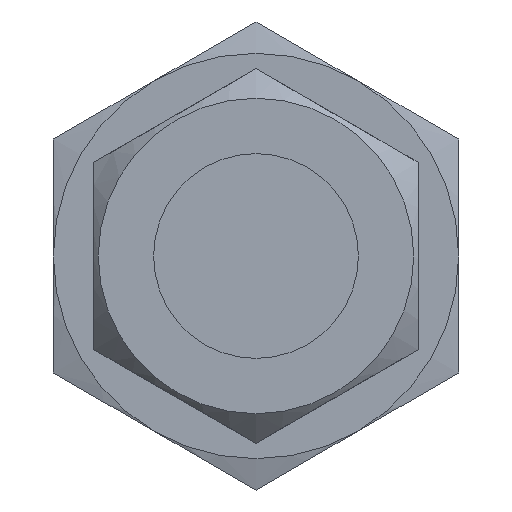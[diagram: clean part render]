
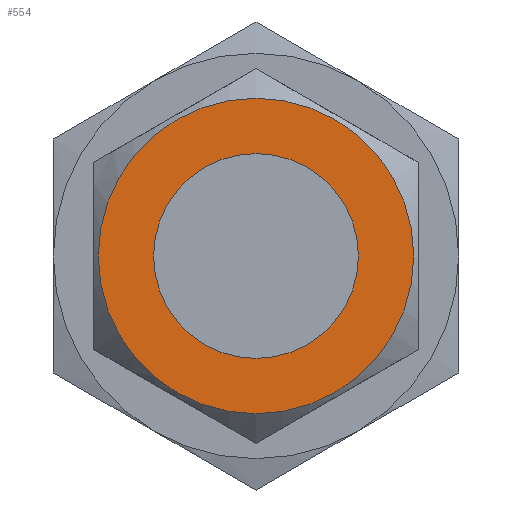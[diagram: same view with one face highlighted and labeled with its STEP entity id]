
A CAD part, left-side view. The second image highlights one B-rep face of the part: STEP entity #554.
In plain terms, the highlighted planar face has unit normal (-1, 0, 0).
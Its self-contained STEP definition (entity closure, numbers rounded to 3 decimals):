
#554 = ADVANCED_FACE( '', ( #1373, #1374 ), #1375, .T. );
#1373 = FACE_BOUND( '', #2494, .T. );
#1374 = FACE_OUTER_BOUND( '', #2495, .T. );
#1375 = PLANE( '', #2496 );
#2494 = EDGE_LOOP( '', ( #4233 ) );
#2495 = EDGE_LOOP( '', ( #4234 ) );
#2496 = AXIS2_PLACEMENT_3D( '', #4235, #4236, #4237 );
#4233 = ORIENTED_EDGE( '', *, *, #6538, .T. );
#4234 = ORIENTED_EDGE( '', *, *, #6539, .F. );
#4235 = CARTESIAN_POINT( '', ( -41.377, 12.505, -12.505 ) );
#4236 = DIRECTION( '', ( -1., 0., 0. ) );
#4237 = DIRECTION( '', ( 0., -1., 0. ) );
#6538 = EDGE_CURVE( '', #7822, #7822, #7823, .T. );
#6539 = EDGE_CURVE( '', #7824, #7824, #7825, .T. );
#7822 = VERTEX_POINT( '', #10135 );
#7823 = CIRCLE( '', #10136, 8.02 );
#7824 = VERTEX_POINT( '', #10137 );
#7825 = CIRCLE( '', #10138, 12.357 );
#10135 = CARTESIAN_POINT( '', ( -41.377, 0., 8.02 ) );
#10136 = AXIS2_PLACEMENT_3D( '', #11876, #11877, #11878 );
#10137 = CARTESIAN_POINT( '', ( -41.377, 0., 12.357 ) );
#10138 = AXIS2_PLACEMENT_3D( '', #11879, #11880, #11881 );
#11876 = CARTESIAN_POINT( '', ( -41.377, 0., 0. ) );
#11877 = DIRECTION( '', ( 1., 0., 0. ) );
#11878 = DIRECTION( '', ( 0., 1., 0. ) );
#11879 = CARTESIAN_POINT( '', ( -41.377, 0., 0. ) );
#11880 = DIRECTION( '', ( 1., 0., 0. ) );
#11881 = DIRECTION( '', ( 0., 1., 0. ) );
